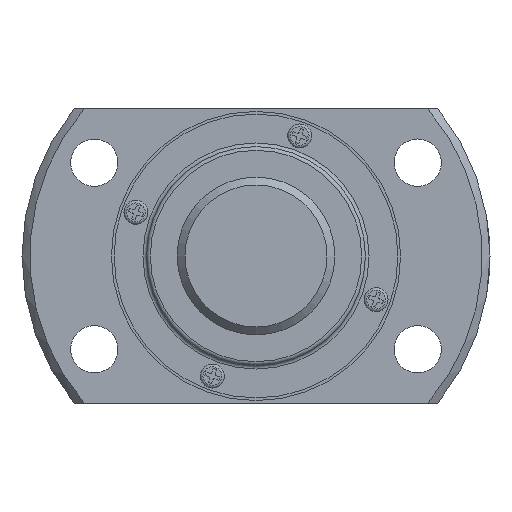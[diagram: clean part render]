
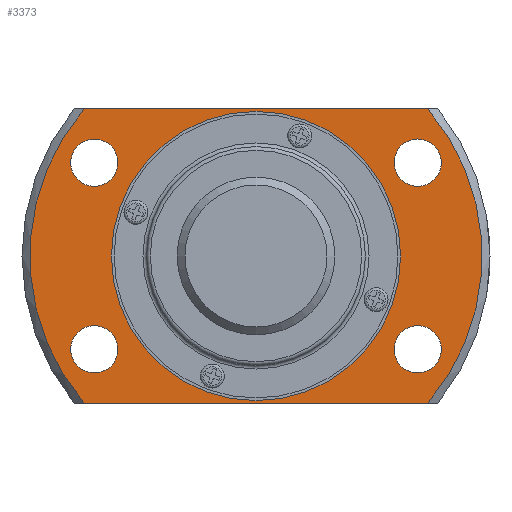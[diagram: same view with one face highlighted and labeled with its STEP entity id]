
A CAD part, left-side view. The second image highlights one B-rep face of the part: STEP entity #3373.
In plain terms, the highlighted planar face has unit normal (-1, 0, 0).
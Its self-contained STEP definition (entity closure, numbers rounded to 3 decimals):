
#36=LINE('',#5069,#364);
#37=LINE('',#5070,#365);
#364=VECTOR('',#4016,1000.);
#365=VECTOR('',#4017,1000.);
#720=PLANE('',#3623);
#886=ORIENTED_EDGE('',*,*,#1822,.T.);
#887=ORIENTED_EDGE('',*,*,#1823,.T.);
#888=ORIENTED_EDGE('',*,*,#1824,.T.);
#889=ORIENTED_EDGE('',*,*,#1825,.T.);
#890=ORIENTED_EDGE('',*,*,#1826,.T.);
#891=ORIENTED_EDGE('',*,*,#1817,.F.);
#892=ORIENTED_EDGE('',*,*,#1827,.T.);
#893=ORIENTED_EDGE('',*,*,#1820,.F.);
#894=ORIENTED_EDGE('',*,*,#1828,.T.);
#1817=EDGE_CURVE('',#2285,#2286,#2615,.T.);
#1820=EDGE_CURVE('',#2287,#2288,#2616,.T.);
#1822=EDGE_CURVE('',#2289,#2289,#2617,.T.);
#1823=EDGE_CURVE('',#2290,#2290,#2618,.T.);
#1824=EDGE_CURVE('',#2291,#2291,#2619,.T.);
#1825=EDGE_CURVE('',#2292,#2292,#2620,.T.);
#1826=EDGE_CURVE('',#2293,#2293,#2621,.T.);
#1827=EDGE_CURVE('',#2285,#2288,#36,.T.);
#1828=EDGE_CURVE('',#2287,#2286,#37,.T.);
#2285=VERTEX_POINT('',#5039);
#2286=VERTEX_POINT('',#5041);
#2287=VERTEX_POINT('',#5051);
#2288=VERTEX_POINT('',#5053);
#2289=VERTEX_POINT('',#5060);
#2290=VERTEX_POINT('',#5062);
#2291=VERTEX_POINT('',#5064);
#2292=VERTEX_POINT('',#5066);
#2293=VERTEX_POINT('',#5068);
#2615=CIRCLE('',#3620,43.017);
#2616=CIRCLE('',#3622,43.017);
#2617=CIRCLE('',#3624,27.5);
#2618=CIRCLE('',#3625,4.5);
#2619=CIRCLE('',#3626,4.5);
#2620=CIRCLE('',#3627,4.5);
#2621=CIRCLE('',#3628,4.5);
#2756=EDGE_LOOP('',(#886));
#2757=EDGE_LOOP('',(#887));
#2758=EDGE_LOOP('',(#888));
#2759=EDGE_LOOP('',(#889));
#2760=EDGE_LOOP('',(#890));
#2761=EDGE_LOOP('',(#891,#892,#893,#894));
#3040=FACE_BOUND('',#2756,.T.);
#3041=FACE_BOUND('',#2757,.T.);
#3042=FACE_BOUND('',#2758,.T.);
#3043=FACE_BOUND('',#2759,.T.);
#3044=FACE_BOUND('',#2760,.T.);
#3045=FACE_BOUND('',#2761,.T.);
#3373=ADVANCED_FACE('',(#3040,#3041,#3042,#3043,#3044,#3045),#720,.T.);
#3620=AXIS2_PLACEMENT_3D('',#5040,#3998,#3999);
#3622=AXIS2_PLACEMENT_3D('',#5052,#4002,#4003);
#3623=AXIS2_PLACEMENT_3D('',#5058,#4004,#4005);
#3624=AXIS2_PLACEMENT_3D('',#5059,#4006,#4007);
#3625=AXIS2_PLACEMENT_3D('',#5061,#4008,#4009);
#3626=AXIS2_PLACEMENT_3D('',#5063,#4010,#4011);
#3627=AXIS2_PLACEMENT_3D('',#5065,#4012,#4013);
#3628=AXIS2_PLACEMENT_3D('',#5067,#4014,#4015);
#3998=DIRECTION('',(1.,0.,0.));
#3999=DIRECTION('',(0.,0.,-1.));
#4002=DIRECTION('',(1.,0.,0.));
#4003=DIRECTION('',(0.,0.,-1.));
#4004=DIRECTION('',(-1.,0.,0.));
#4005=DIRECTION('',(0.,0.,1.));
#4006=DIRECTION('',(1.,0.,0.));
#4007=DIRECTION('',(0.,0.,-1.));
#4008=DIRECTION('',(1.,0.,0.));
#4009=DIRECTION('',(0.,0.,-1.));
#4010=DIRECTION('',(1.,0.,0.));
#4011=DIRECTION('',(0.,0.,-1.));
#4012=DIRECTION('',(1.,0.,0.));
#4013=DIRECTION('',(0.,0.,-1.));
#4014=DIRECTION('',(1.,0.,0.));
#4015=DIRECTION('',(0.,0.,-1.));
#4016=DIRECTION('',(0.,1.,0.));
#4017=DIRECTION('',(0.,-1.,0.));
#5039=CARTESIAN_POINT('',(10.,-32.656,28.));
#5040=CARTESIAN_POINT('',(10.,0.,0.));
#5041=CARTESIAN_POINT('',(10.,-32.656,-28.));
#5051=CARTESIAN_POINT('',(10.,32.656,-28.));
#5052=CARTESIAN_POINT('',(10.,0.,0.));
#5053=CARTESIAN_POINT('',(10.,32.656,28.));
#5058=CARTESIAN_POINT('',(10.,43.017,0.));
#5059=CARTESIAN_POINT('',(10.,0.,0.));
#5060=CARTESIAN_POINT('',(10.,0.,-27.5));
#5061=CARTESIAN_POINT('',(10.,-30.744,17.75));
#5062=CARTESIAN_POINT('',(10.,-30.744,13.25));
#5063=CARTESIAN_POINT('',(10.,30.744,-17.75));
#5064=CARTESIAN_POINT('',(10.,30.744,-22.25));
#5065=CARTESIAN_POINT('',(10.,-30.744,-17.75));
#5066=CARTESIAN_POINT('',(10.,-30.744,-22.25));
#5067=CARTESIAN_POINT('',(10.,30.744,17.75));
#5068=CARTESIAN_POINT('',(10.,30.744,13.25));
#5069=CARTESIAN_POINT('',(10.,43.017,28.));
#5070=CARTESIAN_POINT('',(10.,43.017,-28.));
